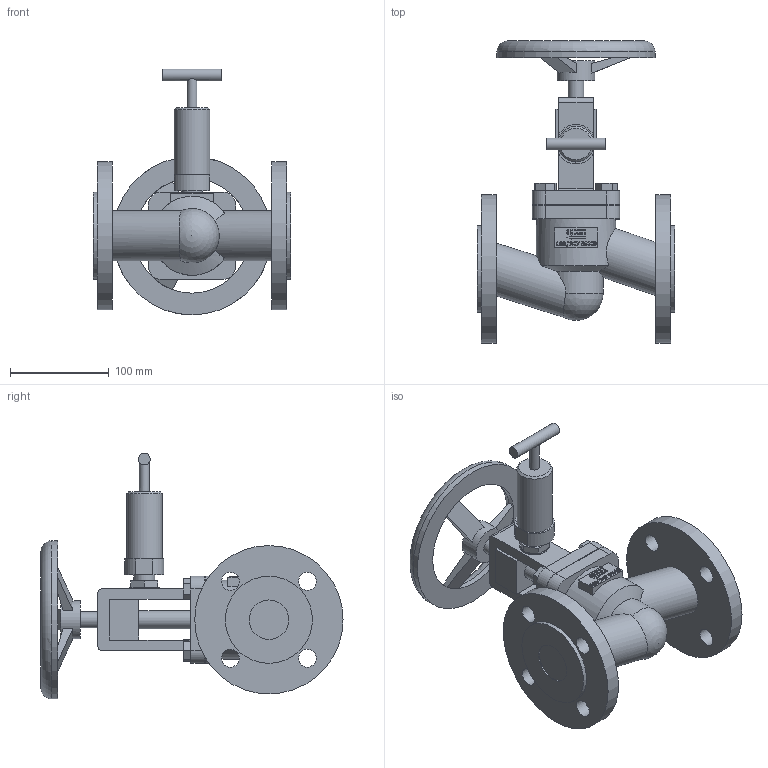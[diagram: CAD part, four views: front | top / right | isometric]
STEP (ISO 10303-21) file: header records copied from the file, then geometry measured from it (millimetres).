
FILE_DESCRIPTION(/* description */ (''),/* implementation_level */ '2;1');
FILE_NAME(/* name */ '100-247HP-DN40-PN16.stp',/* time_stamp */ '2024-07-08T21:36:43+02:00',/* author */ ('roger.thijssen'),/* organization */ (''),/* preprocessor_version */ 'ST-DEVELOPER v20',/* originating_system */ 'Autodesk Inventor 2024',/* authorisation */ '');
FILE_SCHEMA (('AUTOMOTIVE_DESIGN { 1 0 10303 214 3 1 1 }'));
Length unit declared in the file: millimetre
Products named in the file (1): 100-247HP-DN40-PN16
Bounding box: 200 x 305.5 x 248.5 mm (x, y, z)
Volume: 1789212.6 mm3; surface area: 232502 mm2
Topology: 1 solids, 1 shells, 371 faces, 958 edges, 630 vertices
Faces by surface type: plane 249, cylinder 62, bspline 55, cone 3, torus 1, sphere 1
Full cylindrical faces by diameter (mm): 10 x1, 12 x1, 16 x1, 18 x9, 21 x1, 30 x1, 36 x1, 38 x1, 40 x2, 51 x2, 68 x1, 80 x1, 88 x2, 116 x1, 150 x2, 160 x1
Entity records: 12403 total; most frequent: CARTESIAN_POINT 3090, ORIENTED_EDGE 1914, DIRECTION 1618, EDGE_CURVE 957, LINE 672, VECTOR 672, VERTEX_POINT 630, AXIS2_PLACEMENT_3D 473
